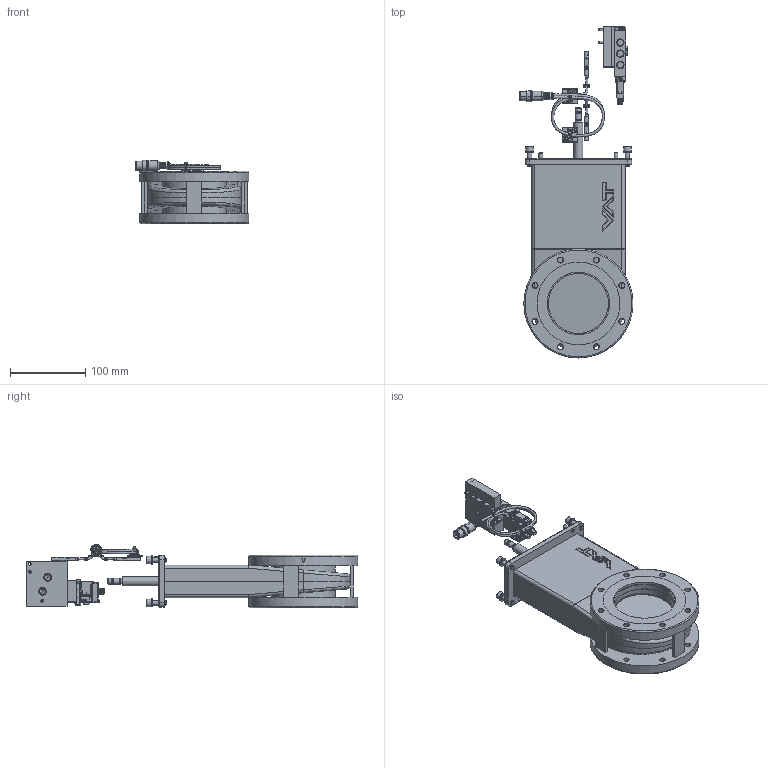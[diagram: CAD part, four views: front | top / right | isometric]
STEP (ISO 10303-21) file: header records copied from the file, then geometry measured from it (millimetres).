
FILE_DESCRIPTION(/* description */ (''),/* implementation_level */ '2;1');
FILE_NAME(/* name */ '1005661117_203.stp',/* time_stamp */ '2021-06-28T10:03:31+02:00',/* author */ (''),/* organization */ (''),/* preprocessor_version */ 'ST-DEVELOPER v16.7',/* originating_system */ 'SIEMENS PLM Software NX 1915',/* authorisation */ '');
FILE_SCHEMA (('AP203_CONFIGURATION_CONTROLLED_3D_DESIGN_OF_MECHANICAL_PARTS_AND_ASSEMBLIES_MIM_LF { 1 0 10303 403 2 1 2}'));
Length unit declared in the file: millimetre
Products named in the file (27): 350769.3_31661ID; 351945.10_31632ID; 351945.10_31631ID; 408099; 1004904; 487660; 411636_31680ID; 957161; 343001.1; 1041281; 938048; 589965; 351298.6_31640ID; 351298.6_31648ID; 251262.4; 351301.5_31595ID; 351301.5_31658ID; 1085547; 984070; 708169; 708168; 493762; 1081830_NX-ARRAGMNTDN080, Standard v3 ; 1004824_NX-ARRAGMNTClose; 351296.12_NX-ARRAGMNTunbearbeitet Original; 351302.14; 1034091
Assembly tree (40 placements, depth 4):
  1034091
    351302.14
      351301.5_31658ID
      351301.5_31595ID
      351296.12_NX-ARRAGMNTunbearbeitet Original
        351945.10_31631ID
        351945.10_31632ID
        350769.3_31661ID
      251262.4  x3
      351298.6_31648ID
      351298.6_31640ID
    493762
    708168  x4
    708169  x4
    1004824_NX-ARRAGMNTClose
      589965
      938048
      1041281
      343001.1  x2
      957161  x2
    1081830_NX-ARRAGMNTDN080, Standard v3 
      411636_31680ID
      487660  x2
      1004904
      408099  x2
    984070  x2
    1085547  x2
Bounding box: 151.4 x 441.6 x 84.4 mm (x, y, z)
Volume: 611147.6 mm3; surface area: 330630 mm2
Topology: 71 solids, 73 shells, 6574 faces, 16783 edges, 10398 vertices
Faces by surface type: plane 2424, cylinder 1778, bspline 887, extrusion 475, torus 420, cone 345, sphere 233, revolution 12
Full cylindrical faces by diameter (mm): 2.46 x2, 2.5 x2, 2.9 x2, 3 x4, 4 x2, 5 x9, 5.2 x2, 5.22 x4, 5.5 x2, 6 x8, 6.4 x6, 6.5 x5, 7.2 x16, 8 x3, 8.56 x3, 10 x4, 11 x5, 12 x1, 25.345 x1, 80.1 x4, 80.3 x4, 83.1 x2, 84.1 x2, 84.6 x2, 145 x2
Entity records: 262744 total; most frequent: CARTESIAN_POINT 90349, ORIENTED_EDGE 30444, DIRECTION 25307, EDGE_CURVE 15222, VERTEX_POINT 9595, AXIS2_PLACEMENT_3D 8964, VECTOR 7373, LINE 6898
